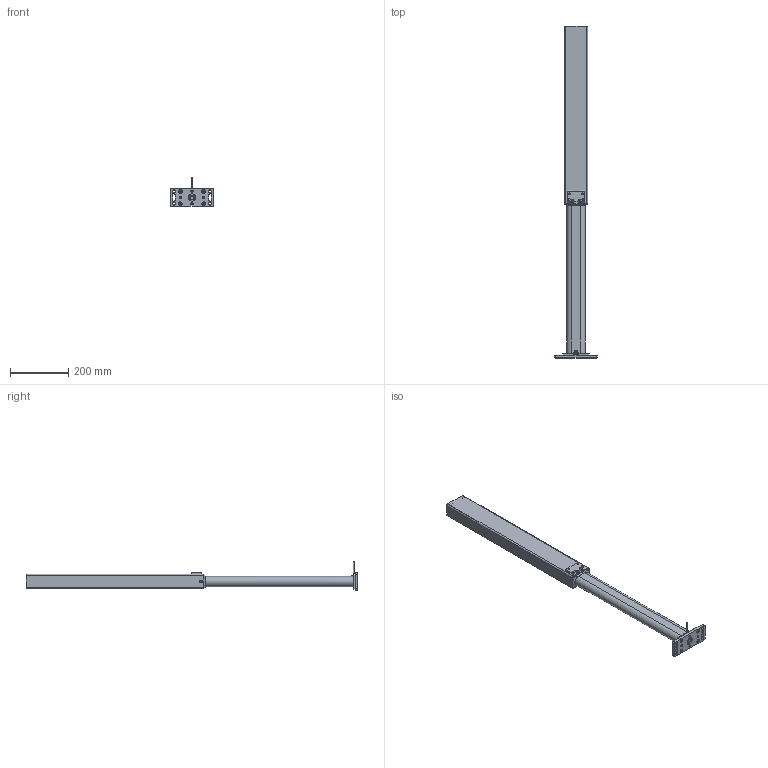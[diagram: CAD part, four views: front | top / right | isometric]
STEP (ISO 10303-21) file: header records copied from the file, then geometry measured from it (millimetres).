
FILE_DESCRIPTION(/* description */ ('Unknown'),/* implementation_level */ '2;1');
FILE_NAME(/* name */ '306.00090 Tischbein TA 1450 ausgefahren',/* time_stamp */ '2018-01-31T16:23:34+01:00',/* author */ ('Unknown'),/* organization */ ('Unknown'),/* preprocessor_version */ 'ST-DEVELOPER v16.7',/* originating_system */ 'DEX',/* authorisation */ $);
FILE_SCHEMA (('AUTOMOTIVE_DESIGN {1 0 10303 214 3 1 1}'));
Length unit declared in the file: millimetre
Products named in the file (21): 306.00090; 124.00004; 142.00068; 107.00147_oa_0; 115.00007_oa_1; 125.00033; 142.00021; 125.00021; 127.00038; 127.00034_oa_2; Aussenprofil TA 1450; 127.00032; 127.00035; Innenprofil TA 1450; Abschlussplatte; 127.00048; Schraube 2,9x6,4; 127.00034_2'403_2'488_Kehlnaht 1_oa_3; 113.00002_70mm; 142.00031; 142.00077
Assembly tree (27 placements, depth 3):
  306.00090
    124.00004
    142.00068
    107.00147_oa_0
      115.00007_oa_1
      125.00033
      142.00021
      125.00021
    127.00038
    127.00034_oa_2
      Aussenprofil TA 1450
      127.00032
      127.00035
      Innenprofil TA 1450
      Abschlussplatte
      127.00048
      Schraube 2,9x6,4  x6
    113.00002_70mm
    142.00031
    142.00077  x4
  127.00034_2'403_2'488_Kehlnaht 1_oa_3
Bounding box: 150 x 1138.5 x 98 mm (x, y, z)
Volume: 606425.9 mm3; surface area: 567594.4 mm2
Topology: 28 solids, 28 shells, 980 faces, 2309 edges, 1375 vertices
Faces by surface type: cylinder 361, plane 329, bspline 129, torus 74, cone 74, sphere 13
Full cylindrical faces by diameter (mm): 1.8 x2, 2.2 x1, 2.5 x6, 2.78 x1, 2.9 x6, 3.5 x1, 4 x1, 4.1 x1, 4.2 x1, 4.917 x16, 5.8 x8, 6 x4, 6.5 x6, 6.647 x1, 6.917 x2, 7 x4, 8 x3, 8.376 x2, 9 x2, 10 x4, 12 x1, 12.5 x1, 13 x6, 13.5 x1, 13.9 x2, 25 x1
Entity records: 23633 total; most frequent: CARTESIAN_POINT 5859, DIRECTION 3257, ORIENTED_EDGE 3140, EDGE_CURVE 1570, AXIS2_PLACEMENT_3D 1296, VERTEX_POINT 1020, FACE_BOUND 962, EDGE_LOOP 960
